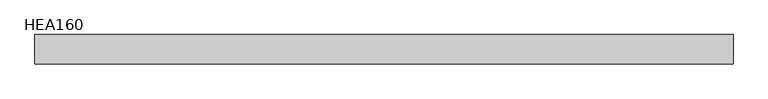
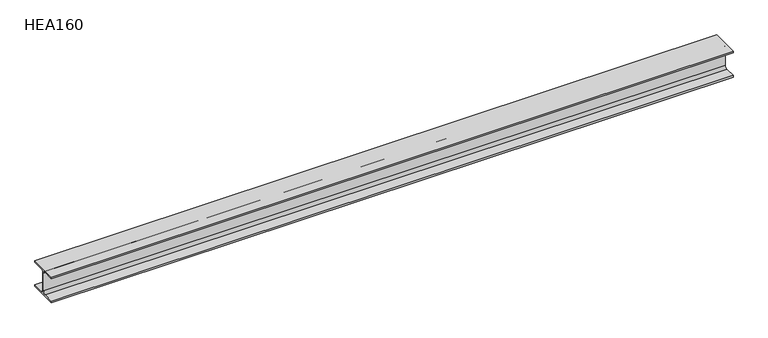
"""IFC4 building model written with IfcOpenShell, lengths in millimetres: beam geometry, HE-A : HEA160."""

from ifc_helpers import new_model, si_unit, point, frame, frame_2d, origin, place, context, project, spatial, polyline, circle_curve, trimmed, segment, composite_curve, outline, extrude, source, transform, mapped, element, save


def hea160_7b7a9898(model_context):
    return source(origin(), model_context, "Body", "SweptSolid", [
        extrude(outline(composite_curve([segment(polyline([(80.0, -67.0), (80.0, -76.0), (-80.0, -76.0), (-80.0, -67.0), (-18.0, -67.0)]), True, "CONTINUOUS"), segment(trimmed(circle_curve(frame_2d((-18.0, -52.0)), 15.0), [point((-18.0, -67.0))], [point((-3.0, -52.0))], True, "CARTESIAN"), True, "CONTINUOUS"), segment(polyline([(-3.0, -52.0), (-3.0, 52.0)]), True, "CONTINUOUS"), segment(trimmed(circle_curve(frame_2d((-18.0, 52.0)), 15.0), [point((-3.0, 52.0))], [point((-18.0, 67.0))], True, "CARTESIAN"), True, "CONTINUOUS"), segment(polyline([(-18.0, 67.0), (-80.0, 67.0), (-80.0, 76.0), (80.0, 76.0), (80.0, 67.0), (18.0, 67.0)]), True, "CONTINUOUS"), segment(trimmed(circle_curve(frame_2d((18.0, 52.0)), 15.0), [point((18.0, 67.0))], [point((3.0, 52.0))], True, "CARTESIAN"), True, "CONTINUOUS"), segment(polyline([(3.0, 52.0), (3.0, -52.0)]), True, "CONTINUOUS"), segment(trimmed(circle_curve(frame_2d((18.0, -52.0)), 15.0), [point((3.0, -52.0))], [point((18.0, -67.0))], True, "CARTESIAN"), True, "CONTINUOUS"), segment(polyline([(18.0, -67.0), (80.0, -67.0)]), True, "CONTINUOUS")], self_intersect=False)), frame((-1907.3, 0.0, 0.0), z_axis=(1.0, 0.0, 0.0), x_axis=(0.0, 1.0, 0.0)), (0.0, 0.0, 1.0), 3814.6),
    ])


if __name__ == "__main__":
    model = new_model("IFC4")
    model_context = context("Model", 3, world=origin())
    ifc_project = project(units=[si_unit("LENGTHUNIT", "METRE", prefix="MILLI")], contexts=[model_context])
    site = spatial("IfcSite", under=ifc_project)
    building = spatial("IfcBuilding", under=site)
    placement = place(None, origin())
    hea160_shape = hea160_7b7a9898(model_context)
    element("IfcBeam", 1, ObjectType="HE-A : HEA160", at=placement, inside=building, context=model_context, shape_type="MappedRepresentation", body=[
        mapped(hea160_shape, transform((0.0, 0.0, 0.0), x_axis=(1.0, 0.0, 0.0), y_axis=(0.0, 1.0, 0.0), z_axis=(0.0, 0.0, 1.0))),
    ])
    save(model, "model.ifc")
